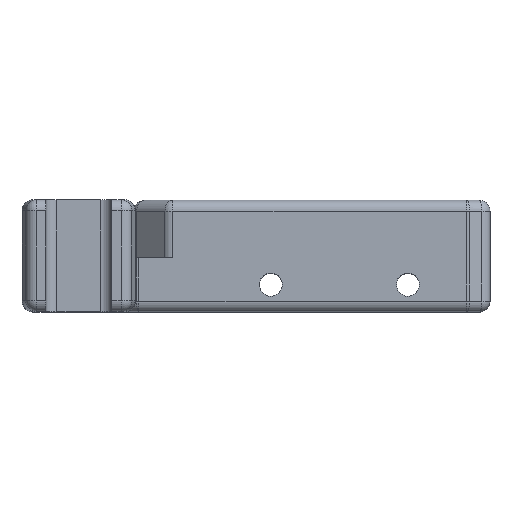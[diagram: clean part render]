
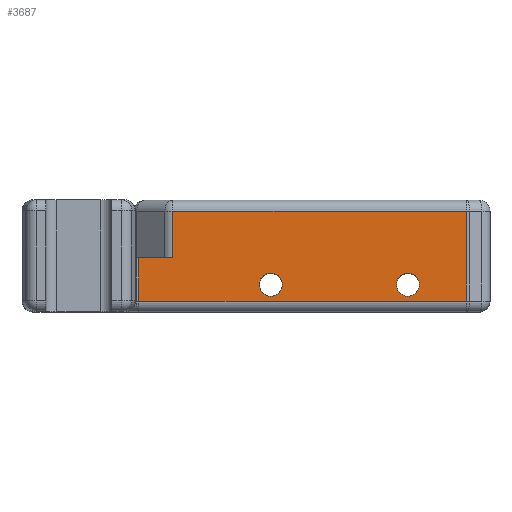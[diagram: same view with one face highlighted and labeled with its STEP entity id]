
A CAD part, top view. The second image highlights one B-rep face of the part: STEP entity #3687.
In plain terms, the highlighted planar face has unit normal (0, 0, 1) as drawn and (0, -1, 0) by its records, which use the part's own axes.
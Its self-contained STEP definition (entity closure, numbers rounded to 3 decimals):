
#26 = VECTOR ( 'NONE', #6085, 1000. ) ;
#40 = LINE ( 'NONE', #3127, #26 ) ;
#242 = VERTEX_POINT ( 'NONE', #3889 ) ;
#281 = VECTOR ( 'NONE', #6455, 1000. ) ;
#374 = CARTESIAN_POINT ( 'NONE',  ( 17.128, -10.35, 18.4 ) ) ;
#539 = CIRCLE ( 'NONE', #6446, 2.1 ) ;
#597 = LINE ( 'NONE', #5691, #1465 ) ;
#695 = CARTESIAN_POINT ( 'NONE',  ( 10.745, -10.35, 2. ) ) ;
#787 = EDGE_CURVE ( 'NONE', #242, #3806, #40, .T. ) ;
#816 = AXIS2_PLACEMENT_3D ( 'NONE', #5276, #4838, #2340 ) ;
#1124 = LINE ( 'NONE', #695, #6087 ) ;
#1280 = EDGE_CURVE ( 'NONE', #1475, #2967, #5206, .T. ) ;
#1390 = VECTOR ( 'NONE', #2806, 1000. ) ;
#1439 = ORIENTED_EDGE ( 'NONE', *, *, #1280, .T. ) ;
#1465 = VECTOR ( 'NONE', #5266, 1000. ) ;
#1475 = VERTEX_POINT ( 'NONE', #4359 ) ;
#1698 = CARTESIAN_POINT ( 'NONE',  ( 17.128, -10.35, 9.9 ) ) ;
#2003 = ORIENTED_EDGE ( 'NONE', *, *, #2183, .T. ) ;
#2090 = CIRCLE ( 'NONE', #5774, 2.1 ) ;
#2168 = ORIENTED_EDGE ( 'NONE', *, *, #787, .T. ) ;
#2183 = EDGE_CURVE ( 'NONE', #3829, #4934, #3978, .T. ) ;
#2206 = FACE_OUTER_BOUND ( 'NONE', #4298, .T. ) ;
#2340 = DIRECTION ( 'NONE',  ( 0., 0., 1. ) ) ;
#2538 = EDGE_CURVE ( 'NONE', #4408, #4408, #539, .T. ) ;
#2697 = ORIENTED_EDGE ( 'NONE', *, *, #2538, .F. ) ;
#2806 = DIRECTION ( 'NONE',  ( 0., 0., 1. ) ) ;
#2967 = VERTEX_POINT ( 'NONE', #3342 ) ;
#3127 = CARTESIAN_POINT ( 'NONE',  ( 10.946, -10.35, 20.4 ) ) ;
#3193 = PLANE ( 'NONE',  #816 ) ;
#3286 = EDGE_CURVE ( 'NONE', #2967, #3829, #4521, .T. ) ;
#3342 = CARTESIAN_POINT ( 'NONE',  ( 70.737, -10.35, 18.4 ) ) ;
#3466 = EDGE_LOOP ( 'NONE', ( #4018 ) ) ;
#3584 = ORIENTED_EDGE ( 'NONE', *, *, #5171, .T. ) ;
#3603 = DIRECTION ( 'NONE',  ( 1., 0., 0. ) ) ;
#3687 = ADVANCED_FACE ( 'NONE', ( #2206, #4215, #5309 ), #3193, .F. ) ;
#3806 = VERTEX_POINT ( 'NONE', #5565 ) ;
#3808 = DIRECTION ( 'NONE',  ( 0., 0., -1. ) ) ;
#3829 = VERTEX_POINT ( 'NONE', #4685 ) ;
#3863 = VECTOR ( 'NONE', #5005, 1000. ) ;
#3889 = CARTESIAN_POINT ( 'NONE',  ( 10.946, -10.35, 9.9 ) ) ;
#3900 = DIRECTION ( 'NONE',  ( 0., -1., 0. ) ) ;
#3978 = LINE ( 'NONE', #4907, #281 ) ;
#3987 = ORIENTED_EDGE ( 'NONE', *, *, #6462, .F. ) ;
#4018 = ORIENTED_EDGE ( 'NONE', *, *, #4070, .F. ) ;
#4070 = EDGE_CURVE ( 'NONE', #5946, #5946, #2090, .T. ) ;
#4215 = FACE_BOUND ( 'NONE', #5230, .T. ) ;
#4298 = EDGE_LOOP ( 'NONE', ( #2168, #3584, #1439, #6477, #2003, #3987 ) ) ;
#4359 = CARTESIAN_POINT ( 'NONE',  ( 70.737, -10.35, 2. ) ) ;
#4408 = VERTEX_POINT ( 'NONE', #5912 ) ;
#4475 = CARTESIAN_POINT ( 'NONE',  ( 60.038, -10.35, 2.9 ) ) ;
#4521 = LINE ( 'NONE', #374, #3863 ) ;
#4685 = CARTESIAN_POINT ( 'NONE',  ( 17.128, -10.35, 18.4 ) ) ;
#4838 = DIRECTION ( 'NONE',  ( 0., 1., 0. ) ) ;
#4907 = CARTESIAN_POINT ( 'NONE',  ( 17.128, -10.35, 20.4 ) ) ;
#4934 = VERTEX_POINT ( 'NONE', #1698 ) ;
#5005 = DIRECTION ( 'NONE',  ( -1., 0., 0. ) ) ;
#5150 = CARTESIAN_POINT ( 'NONE',  ( 60.038, -10.35, 5. ) ) ;
#5171 = EDGE_CURVE ( 'NONE', #3806, #1475, #1124, .T. ) ;
#5206 = LINE ( 'NONE', #5838, #1390 ) ;
#5216 = DIRECTION ( 'NONE',  ( 0., -1., 0. ) ) ;
#5230 = EDGE_LOOP ( 'NONE', ( #2697 ) ) ;
#5266 = DIRECTION ( 'NONE',  ( 1., 0., 0. ) ) ;
#5276 = CARTESIAN_POINT ( 'NONE',  ( 10.745, -10.35, 20.4 ) ) ;
#5309 = FACE_BOUND ( 'NONE', #3466, .T. ) ;
#5565 = CARTESIAN_POINT ( 'NONE',  ( 10.946, -10.35, 2. ) ) ;
#5691 = CARTESIAN_POINT ( 'NONE',  ( 10.745, -10.35, 9.9 ) ) ;
#5774 = AXIS2_PLACEMENT_3D ( 'NONE', #5150, #5216, #6103 ) ;
#5838 = CARTESIAN_POINT ( 'NONE',  ( 70.737, -10.35, 20.4 ) ) ;
#5912 = CARTESIAN_POINT ( 'NONE',  ( 35.038, -10.35, 2.9 ) ) ;
#5946 = VERTEX_POINT ( 'NONE', #4475 ) ;
#6085 = DIRECTION ( 'NONE',  ( 0., 0., -1. ) ) ;
#6087 = VECTOR ( 'NONE', #3603, 1000. ) ;
#6103 = DIRECTION ( 'NONE',  ( 0., 0., -1. ) ) ;
#6308 = CARTESIAN_POINT ( 'NONE',  ( 35.038, -10.35, 5. ) ) ;
#6446 = AXIS2_PLACEMENT_3D ( 'NONE', #6308, #3900, #3808 ) ;
#6455 = DIRECTION ( 'NONE',  ( 0., 0., -1. ) ) ;
#6462 = EDGE_CURVE ( 'NONE', #242, #4934, #597, .T. ) ;
#6477 = ORIENTED_EDGE ( 'NONE', *, *, #3286, .T. ) ;
